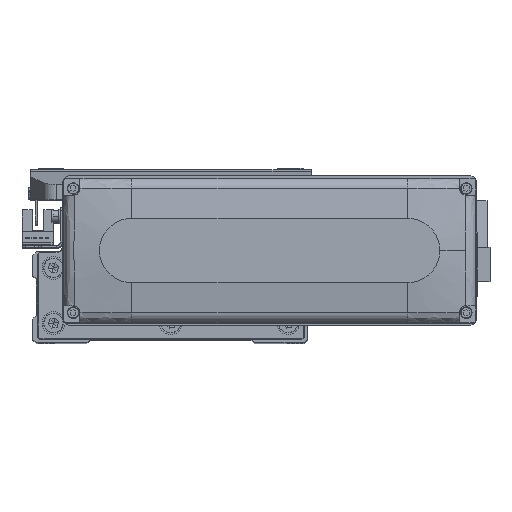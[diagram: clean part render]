
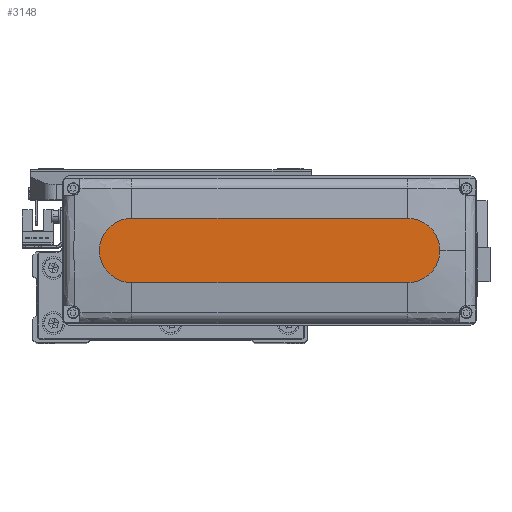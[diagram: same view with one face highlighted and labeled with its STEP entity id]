
A CAD part, top view. The second image highlights one B-rep face of the part: STEP entity #3148.
In plain terms, the highlighted planar face has unit normal (0, 0, 1).
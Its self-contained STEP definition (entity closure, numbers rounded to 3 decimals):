
#338 = DIRECTION ( 'NONE',  ( 1., 0., 0. ) ) ;
#1020 = VERTEX_POINT ( 'NONE', #27596 ) ;
#1479 = ORIENTED_EDGE ( 'NONE', *, *, #44315, .T. ) ;
#3148 = ADVANCED_FACE ( 'NONE', ( #11667 ), #13074, .T. ) ;
#4047 = CIRCLE ( 'NONE', #45399, 14. ) ;
#4325 = DIRECTION ( 'NONE',  ( 0., 0., 1. ) ) ;
#5888 = CARTESIAN_POINT ( 'NONE',  ( 60., 0., 28.5 ) ) ;
#6181 = CARTESIAN_POINT ( 'NONE',  ( -60., -14., 28.5 ) ) ;
#6671 = ORIENTED_EDGE ( 'NONE', *, *, #38191, .T. ) ;
#8998 = AXIS2_PLACEMENT_3D ( 'NONE', #13414, #32839, #43304 ) ;
#9369 = DIRECTION ( 'NONE',  ( 0., 0., 1. ) ) ;
#11667 = FACE_OUTER_BOUND ( 'NONE', #45385, .T. ) ;
#12594 = AXIS2_PLACEMENT_3D ( 'NONE', #26863, #9369, #39745 ) ;
#13074 = PLANE ( 'NONE',  #12594 ) ;
#13414 = CARTESIAN_POINT ( 'NONE',  ( -60., 0., 28.5 ) ) ;
#14075 = DIRECTION ( 'NONE',  ( 1., 0., 0. ) ) ;
#14248 = CARTESIAN_POINT ( 'NONE',  ( 74., 0., 28.5 ) ) ;
#15350 = AXIS2_PLACEMENT_3D ( 'NONE', #5888, #18565, #14075 ) ;
#15554 = ORIENTED_EDGE ( 'NONE', *, *, #45162, .T. ) ;
#18093 = VERTEX_POINT ( 'NONE', #14248 ) ;
#18565 = DIRECTION ( 'NONE',  ( 0., 0., 1. ) ) ;
#20826 = CARTESIAN_POINT ( 'NONE',  ( 60., -14., 28.5 ) ) ;
#21339 = VECTOR ( 'NONE', #37083, 1000. ) ;
#25631 = LINE ( 'NONE', #40822, #21339 ) ;
#26017 = ORIENTED_EDGE ( 'NONE', *, *, #42682, .T. ) ;
#26863 = CARTESIAN_POINT ( 'NONE',  ( 0., 0., 28.5 ) ) ;
#27072 = VERTEX_POINT ( 'NONE', #6181 ) ;
#27302 = CIRCLE ( 'NONE', #15350, 14. ) ;
#27596 = CARTESIAN_POINT ( 'NONE',  ( -60., 14., 28.5 ) ) ;
#27617 = DIRECTION ( 'NONE',  ( -1., 0., 0. ) ) ;
#28343 = VERTEX_POINT ( 'NONE', #43797 ) ;
#28674 = VERTEX_POINT ( 'NONE', #20826 ) ;
#31026 = VECTOR ( 'NONE', #27617, 1000. ) ;
#31121 = CARTESIAN_POINT ( 'NONE',  ( -60., 14., 28.5 ) ) ;
#32839 = DIRECTION ( 'NONE',  ( 0., 0., 1. ) ) ;
#33681 = CIRCLE ( 'NONE', #8998, 14. ) ;
#34987 = ORIENTED_EDGE ( 'NONE', *, *, #47022, .T. ) ;
#37083 = DIRECTION ( 'NONE',  ( 1., 0., 0. ) ) ;
#38191 = EDGE_CURVE ( 'NONE', #28674, #18093, #27302, .T. ) ;
#38442 = CARTESIAN_POINT ( 'NONE',  ( 60., 0., 28.5 ) ) ;
#39745 = DIRECTION ( 'NONE',  ( 1., 0., 0. ) ) ;
#40822 = CARTESIAN_POINT ( 'NONE',  ( -60., -14., 28.5 ) ) ;
#42682 = EDGE_CURVE ( 'NONE', #27072, #28674, #25631, .T. ) ;
#43304 = DIRECTION ( 'NONE',  ( 1., 0., 0. ) ) ;
#43797 = CARTESIAN_POINT ( 'NONE',  ( 60., 14., 28.5 ) ) ;
#44315 = EDGE_CURVE ( 'NONE', #28343, #1020, #45796, .T. ) ;
#45162 = EDGE_CURVE ( 'NONE', #18093, #28343, #4047, .T. ) ;
#45385 = EDGE_LOOP ( 'NONE', ( #1479, #34987, #26017, #6671, #15554 ) ) ;
#45399 = AXIS2_PLACEMENT_3D ( 'NONE', #38442, #4325, #338 ) ;
#45796 = LINE ( 'NONE', #31121, #31026 ) ;
#47022 = EDGE_CURVE ( 'NONE', #1020, #27072, #33681, .T. ) ;
